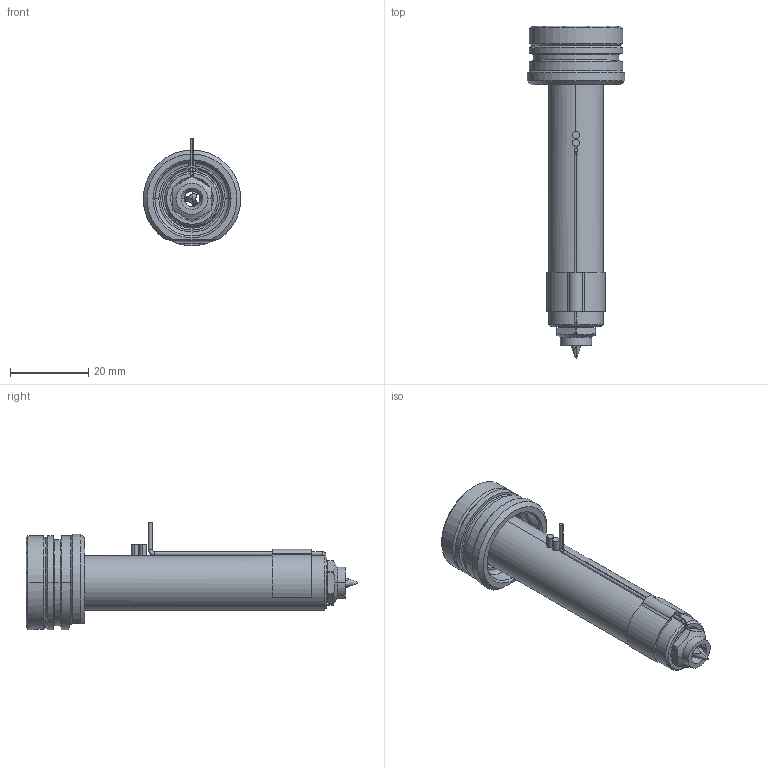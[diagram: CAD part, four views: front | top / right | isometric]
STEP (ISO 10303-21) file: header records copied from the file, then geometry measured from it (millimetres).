
FILE_DESCRIPTION((''),'2;1');
FILE_NAME('EO04_PG-BL_WR_070_SW','2024-02-19T10:59:07',('sundharh'),(''),'CREO PARAMETRIC BY PTC INC, 2023154','CREO PARAMETRIC BY PTC INC, 2023154','');
FILE_SCHEMA(('CONFIG_CONTROL_DESIGN'));
Length unit declared in the file: millimetre
Products named in the file (1): EO04_PG-BL_WR_070_SW
Bounding box: 24.99 x 85 x 27.5 mm (x, y, z)
Volume: 15016.2 mm3; surface area: 7982 mm2
Topology: 2 solids, 2 shells, 222 faces, 595 edges, 364 vertices
Faces by surface type: cylinder 84, plane 59, cone 44, torus 22, bspline 11, sphere 2
Entity records: 8141 total; most frequent: CARTESIAN_POINT 2534, DIRECTION 1219, ORIENTED_EDGE 1178, EDGE_CURVE 589, AXIS2_PLACEMENT_3D 511, VERTEX_POINT 364, CIRCLE 300, EDGE_LOOP 237
